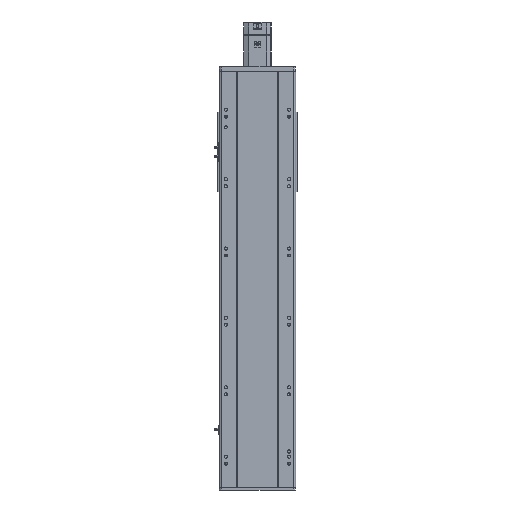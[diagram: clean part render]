
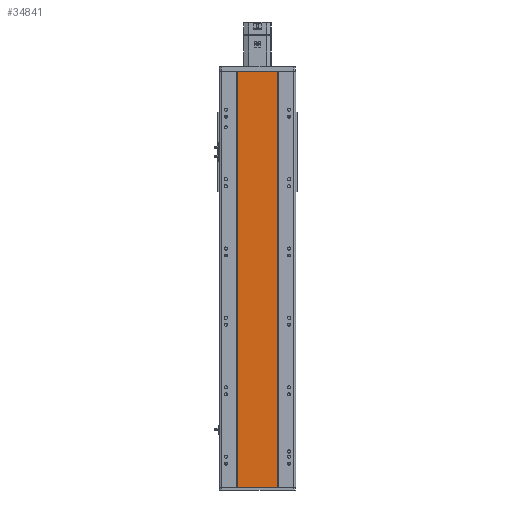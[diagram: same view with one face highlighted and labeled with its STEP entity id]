
A CAD part, front view. The second image highlights one B-rep face of the part: STEP entity #34841.
In plain terms, the highlighted planar face has unit normal (0, -1, 0).
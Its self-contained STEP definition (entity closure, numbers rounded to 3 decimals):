
#417 = ORIENTED_EDGE ( 'NONE', *, *, #10354, .F. ) ;
#1507 = EDGE_CURVE ( 'NONE', #20006, #21499, #20620, .T. ) ;
#1558 = EDGE_CURVE ( 'NONE', #19321, #36691, #3117, .T. ) ;
#2901 = DIRECTION ( 'NONE',  ( 0., 0., -1. ) ) ;
#3117 = LINE ( 'NONE', #36212, #28973 ) ;
#3311 = EDGE_LOOP ( 'NONE', ( #21705, #417, #19288, #10327 ) ) ;
#5192 = VECTOR ( 'NONE', #2901, 1000. ) ;
#6477 = VECTOR ( 'NONE', #7623, 1000. ) ;
#7623 = DIRECTION ( 'NONE',  ( 0., 0., -1. ) ) ;
#8874 = LINE ( 'NONE', #26599, #5192 ) ;
#9114 = PLANE ( 'NONE',  #15658 ) ;
#10222 = FACE_OUTER_BOUND ( 'NONE', #3311, .T. ) ;
#10327 = ORIENTED_EDGE ( 'NONE', *, *, #22334, .T. ) ;
#10354 = EDGE_CURVE ( 'NONE', #36691, #21499, #15226, .T. ) ;
#12826 = VECTOR ( 'NONE', #32886, 1000. ) ;
#14717 = CARTESIAN_POINT ( 'NONE',  ( -59., 1., -600.5 ) ) ;
#14758 = CARTESIAN_POINT ( 'NONE',  ( -59., 1., 600.5 ) ) ;
#15226 = LINE ( 'NONE', #19206, #6477 ) ;
#15658 = AXIS2_PLACEMENT_3D ( 'NONE', #17651, #35575, #17776 ) ;
#17651 = CARTESIAN_POINT ( 'NONE',  ( -59., 1., 600.5 ) ) ;
#17776 = DIRECTION ( 'NONE',  ( -1., 0., 0. ) ) ;
#19206 = CARTESIAN_POINT ( 'NONE',  ( 59., 1., 600.5 ) ) ;
#19288 = ORIENTED_EDGE ( 'NONE', *, *, #1558, .F. ) ;
#19321 = VERTEX_POINT ( 'NONE', #14758 ) ;
#20006 = VERTEX_POINT ( 'NONE', #14717 ) ;
#20620 = LINE ( 'NONE', #36083, #12826 ) ;
#20966 = DIRECTION ( 'NONE',  ( 1., 0., 0. ) ) ;
#21499 = VERTEX_POINT ( 'NONE', #24908 ) ;
#21705 = ORIENTED_EDGE ( 'NONE', *, *, #1507, .T. ) ;
#22334 = EDGE_CURVE ( 'NONE', #19321, #20006, #8874, .T. ) ;
#24908 = CARTESIAN_POINT ( 'NONE',  ( 59., 1., -600.5 ) ) ;
#26599 = CARTESIAN_POINT ( 'NONE',  ( -59., 1., 600.5 ) ) ;
#28973 = VECTOR ( 'NONE', #20966, 1000. ) ;
#29397 = CARTESIAN_POINT ( 'NONE',  ( 59., 1., 600.5 ) ) ;
#32886 = DIRECTION ( 'NONE',  ( 1., 0., 0. ) ) ;
#34841 = ADVANCED_FACE ( 'NONE', ( #10222 ), #9114, .F. ) ;
#35575 = DIRECTION ( 'NONE',  ( 0., 1., 0. ) ) ;
#36083 = CARTESIAN_POINT ( 'NONE',  ( -59., 1., -600.5 ) ) ;
#36212 = CARTESIAN_POINT ( 'NONE',  ( -59., 1., 600.5 ) ) ;
#36691 = VERTEX_POINT ( 'NONE', #29397 ) ;
